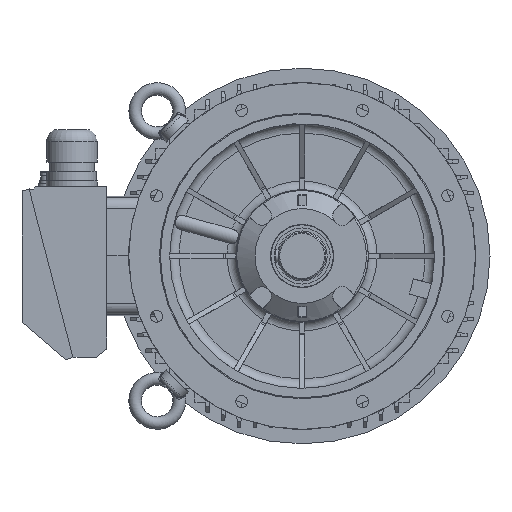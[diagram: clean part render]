
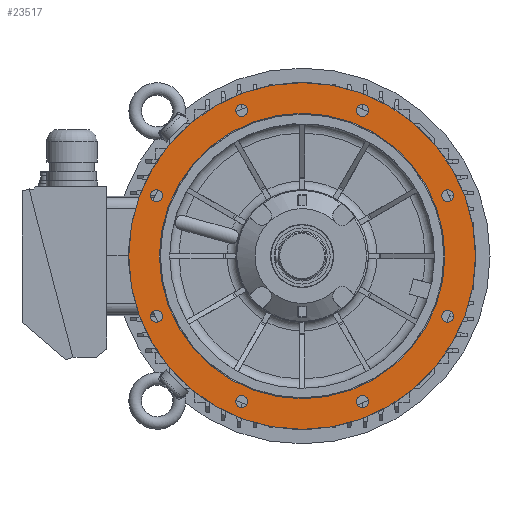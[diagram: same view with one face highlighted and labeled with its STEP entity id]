
A CAD part, front view. The second image highlights one B-rep face of the part: STEP entity #23517.
In plain terms, the highlighted planar face has unit normal (0, -1, 0).
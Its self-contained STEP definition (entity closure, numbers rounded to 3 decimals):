
#148=PLANE('',#24560);
#1312=CIRCLE('',#24561,9.5);
#1313=CIRCLE('',#24562,9.5);
#1314=CIRCLE('',#24563,9.5);
#1315=CIRCLE('',#24564,9.5);
#1316=CIRCLE('',#24565,226.4);
#1317=CIRCLE('',#24566,275.);
#1318=CIRCLE('',#24567,9.5);
#1319=CIRCLE('',#24568,9.5);
#1320=CIRCLE('',#24569,9.5);
#1321=CIRCLE('',#24570,9.5);
#2289=ORIENTED_EDGE('',*,*,#7251,.F.);
#2290=ORIENTED_EDGE('',*,*,#7252,.F.);
#2291=ORIENTED_EDGE('',*,*,#7253,.F.);
#2292=ORIENTED_EDGE('',*,*,#7254,.F.);
#2293=ORIENTED_EDGE('',*,*,#7255,.F.);
#2294=ORIENTED_EDGE('',*,*,#7256,.T.);
#2295=ORIENTED_EDGE('',*,*,#7257,.F.);
#2296=ORIENTED_EDGE('',*,*,#7258,.F.);
#2297=ORIENTED_EDGE('',*,*,#7259,.F.);
#2298=ORIENTED_EDGE('',*,*,#7260,.F.);
#7251=EDGE_CURVE('',#9762,#9762,#1312,.F.);
#7252=EDGE_CURVE('',#9763,#9763,#1313,.F.);
#7253=EDGE_CURVE('',#9764,#9764,#1314,.F.);
#7254=EDGE_CURVE('',#9765,#9765,#1315,.F.);
#7255=EDGE_CURVE('',#9766,#9766,#1316,.T.);
#7256=EDGE_CURVE('',#9767,#9767,#1317,.T.);
#7257=EDGE_CURVE('',#9768,#9768,#1318,.F.);
#7258=EDGE_CURVE('',#9769,#9769,#1319,.F.);
#7259=EDGE_CURVE('',#9770,#9770,#1320,.F.);
#7260=EDGE_CURVE('',#9771,#9771,#1321,.F.);
#9762=VERTEX_POINT('',#31572);
#9763=VERTEX_POINT('',#31574);
#9764=VERTEX_POINT('',#31576);
#9765=VERTEX_POINT('',#31578);
#9766=VERTEX_POINT('',#31580);
#9767=VERTEX_POINT('',#31582);
#9768=VERTEX_POINT('',#31584);
#9769=VERTEX_POINT('',#31586);
#9770=VERTEX_POINT('',#31588);
#9771=VERTEX_POINT('',#31590);
#14270=EDGE_LOOP('',(#2289));
#14271=EDGE_LOOP('',(#2290));
#14272=EDGE_LOOP('',(#2291));
#14273=EDGE_LOOP('',(#2292));
#14274=EDGE_LOOP('',(#2293));
#14275=EDGE_LOOP('',(#2294));
#14276=EDGE_LOOP('',(#2295));
#14277=EDGE_LOOP('',(#2296));
#14278=EDGE_LOOP('',(#2297));
#14279=EDGE_LOOP('',(#2298));
#15398=FACE_BOUND('',#14270,.T.);
#15399=FACE_BOUND('',#14271,.T.);
#15400=FACE_BOUND('',#14272,.T.);
#15401=FACE_BOUND('',#14273,.T.);
#15402=FACE_BOUND('',#14274,.T.);
#15403=FACE_BOUND('',#14275,.T.);
#15404=FACE_BOUND('',#14276,.T.);
#15405=FACE_BOUND('',#14277,.T.);
#15406=FACE_BOUND('',#14278,.T.);
#15407=FACE_BOUND('',#14279,.T.);
#23517=ADVANCED_FACE('',(#15398,#15399,#15400,#15401,#15402,#15403,#15404,
#15405,#15406,#15407),#148,.F.);
#24560=AXIS2_PLACEMENT_3D('',#31570,#26481,#26482);
#24561=AXIS2_PLACEMENT_3D('',#31571,#26483,#26484);
#24562=AXIS2_PLACEMENT_3D('',#31573,#26485,#26486);
#24563=AXIS2_PLACEMENT_3D('',#31575,#26487,#26488);
#24564=AXIS2_PLACEMENT_3D('',#31577,#26489,#26490);
#24565=AXIS2_PLACEMENT_3D('',#31579,#26491,#26492);
#24566=AXIS2_PLACEMENT_3D('',#31581,#26493,#26494);
#24567=AXIS2_PLACEMENT_3D('',#31583,#26495,#26496);
#24568=AXIS2_PLACEMENT_3D('',#31585,#26497,#26498);
#24569=AXIS2_PLACEMENT_3D('',#31587,#26499,#26500);
#24570=AXIS2_PLACEMENT_3D('',#31589,#26501,#26502);
#26481=DIRECTION('',(0.,1.,0.));
#26482=DIRECTION('',(-1.,0.,0.));
#26483=DIRECTION('',(0.,1.,0.));
#26484=DIRECTION('',(-1.,0.,0.));
#26485=DIRECTION('',(0.,1.,0.));
#26486=DIRECTION('',(-1.,0.,0.));
#26487=DIRECTION('',(0.,1.,0.));
#26488=DIRECTION('',(-1.,0.,0.));
#26489=DIRECTION('',(0.,1.,0.));
#26490=DIRECTION('',(-1.,0.,0.));
#26491=DIRECTION('',(0.,-1.,0.));
#26492=DIRECTION('',(1.,0.,0.));
#26493=DIRECTION('',(0.,-1.,0.));
#26494=DIRECTION('',(1.,0.,0.));
#26495=DIRECTION('',(0.,1.,0.));
#26496=DIRECTION('',(-1.,0.,0.));
#26497=DIRECTION('',(0.,1.,0.));
#26498=DIRECTION('',(-1.,0.,0.));
#26499=DIRECTION('',(0.,1.,0.));
#26500=DIRECTION('',(-1.,0.,0.));
#26501=DIRECTION('',(0.,1.,0.));
#26502=DIRECTION('',(-1.,0.,0.));
#31570=CARTESIAN_POINT('',(-226.4,-95.997,0.));
#31571=CARTESIAN_POINT('',(230.97,-95.997,95.671));
#31572=CARTESIAN_POINT('',(221.47,-95.997,95.671));
#31573=CARTESIAN_POINT('',(95.671,-95.997,-230.97));
#31574=CARTESIAN_POINT('',(86.171,-95.997,-230.97));
#31575=CARTESIAN_POINT('',(-230.97,-95.997,-95.671));
#31576=CARTESIAN_POINT('',(-240.47,-95.997,-95.671));
#31577=CARTESIAN_POINT('',(-95.671,-95.997,230.97));
#31578=CARTESIAN_POINT('',(-105.171,-95.997,230.97));
#31579=CARTESIAN_POINT('',(0.,-95.997,0.));
#31580=CARTESIAN_POINT('',(226.4,-95.997,0.));
#31581=CARTESIAN_POINT('',(0.,-95.997,0.));
#31582=CARTESIAN_POINT('',(275.,-95.997,0.));
#31583=CARTESIAN_POINT('',(-230.97,-95.997,95.671));
#31584=CARTESIAN_POINT('',(-240.47,-95.997,95.671));
#31585=CARTESIAN_POINT('',(-95.671,-95.997,-230.97));
#31586=CARTESIAN_POINT('',(-105.171,-95.997,-230.97));
#31587=CARTESIAN_POINT('',(230.97,-95.997,-95.671));
#31588=CARTESIAN_POINT('',(221.47,-95.997,-95.671));
#31589=CARTESIAN_POINT('',(95.671,-95.997,230.97));
#31590=CARTESIAN_POINT('',(86.171,-95.997,230.97));
